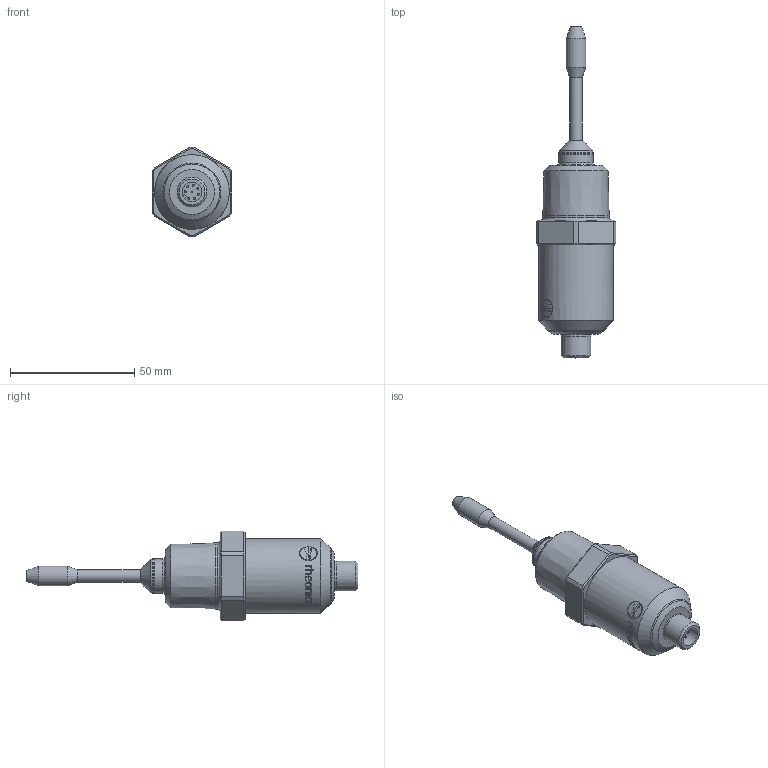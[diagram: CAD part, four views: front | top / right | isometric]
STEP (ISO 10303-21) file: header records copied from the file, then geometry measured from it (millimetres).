
FILE_DESCRIPTION(/* description */ ('Unknown'),/* implementation_level */ '2;1');
FILE_NAME(/* name */ 'PDM_006700',/* time_stamp */ '2025-11-11T15:09:44-05:00',/* author */ ('Unknown'),/* organization */ ('Unknown'),/* preprocessor_version */ 'ST-DEVELOPER v20',/* originating_system */ 'Solid Edge',/* authorisation */ 'Unknown');
FILE_SCHEMA (('AUTOMOTIVE_DESIGN {1 0 10303 214 3 1 1}'));
Length unit declared in the file: millimetre
Products named in the file (1): PDM_006700
Bounding box: 32 x 133.56 x 36 mm (x, y, z)
Volume: 47942.5 mm3; surface area: 9377.3 mm2
Topology: 1 solids, 1 shells, 207 faces, 527 edges, 332 vertices
Faces by surface type: plane 69, cylinder 55, bspline 44, cone 27, sphere 9, torus 3
Full cylindrical faces by diameter (mm): 0.8 x8, 5.019 x1, 8 x2, 12 x2, 13.9 x1, 26.67 x1, 30 x1
Entity records: 7907 total; most frequent: CARTESIAN_POINT 3783, ORIENTED_EDGE 908, DIRECTION 635, EDGE_CURVE 454, VERTEX_POINT 310, EDGE_LOOP 268, FACE_BOUND 268, AXIS2_PLACEMENT_3D 256
